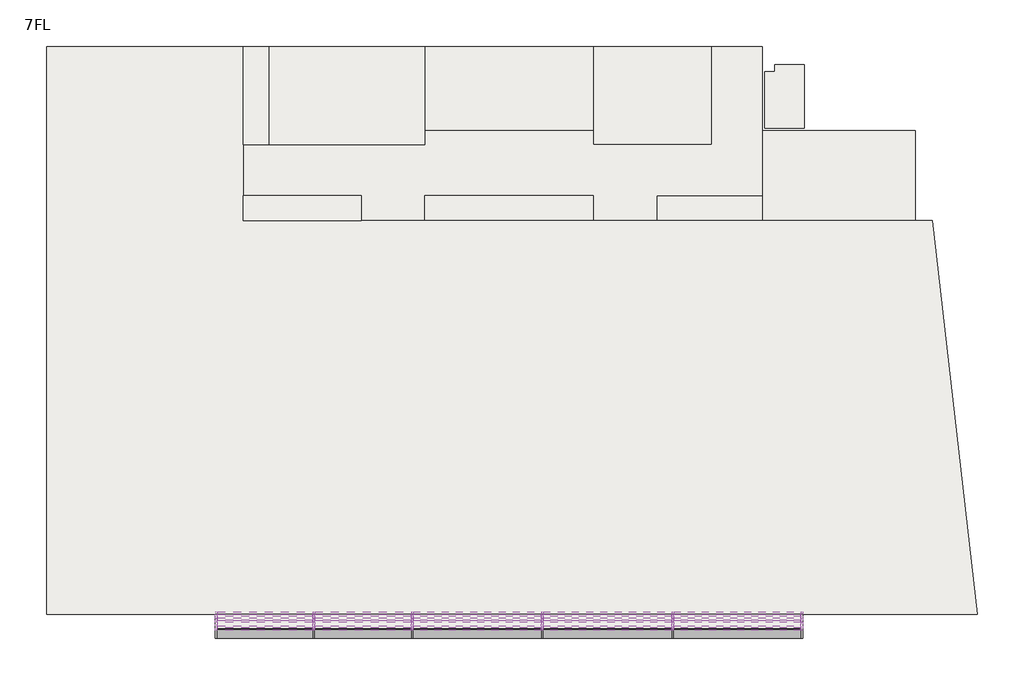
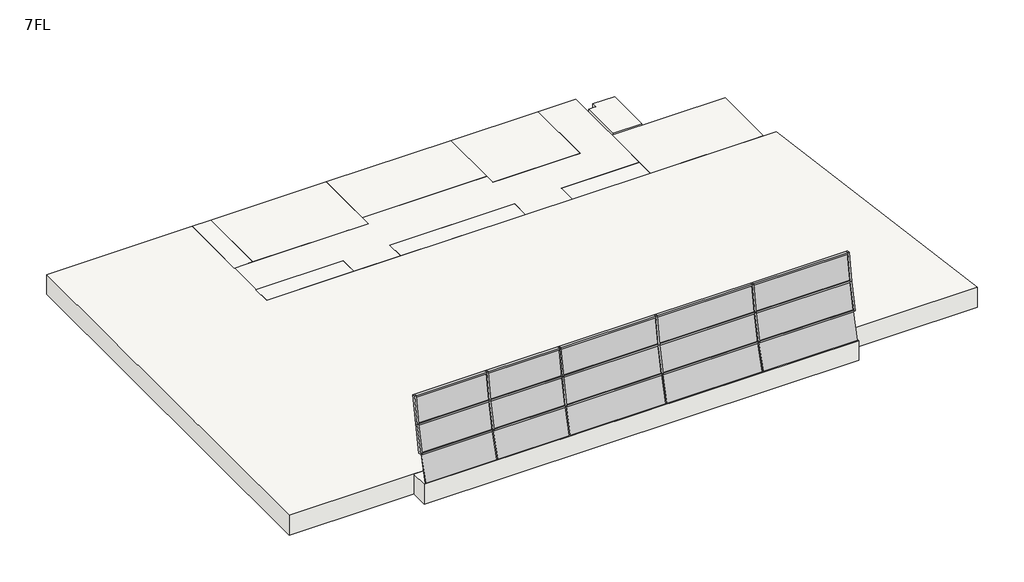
# One storey: 27 members, 15 plates, 12 slabs.
"""IFC4 building model written with IfcOpenShell, lengths in millimetres."""

from ifc_helpers import new_model, si_unit, frame, origin, place, context, project, spatial, polyline, outline, extrude, transform, mapped, element, save
from components import member_70x150_4d24a05e, member_70x150_d36ba8ce, member_70x150_5c89d520, member_70x150_7418113c, member_70x150_34a13c10, member_70x150_728e362a, member_70x150_c8471558, member_70x150_2e5d5b14, member_70x150_fe92fd29, member_70x150_cb2c3fb9, member_70x150_0479a1cf, member_70x150_b7995fa3, member_70x150_c22fedda, member_70x150_83a150f0, plate_ce47b6dc, plate_d6c8d9a2, plate_09a63815, plate_a1dfd6cd, plate_0d44b53b, plate_b0379a14, plate_8248b05d, plate_61a0db6e, plate_442a9317, plate_43654f06, plate_840d3f25, plate_1f6e643f

model = new_model("IFC4")

# Units and contexts
model_context = context("Model", 3, world=origin())
ifc_project = project(units=[si_unit("LENGTHUNIT", "METRE", prefix="MILLI")], contexts=[model_context])

# Site, building, storey
site = spatial("IfcSite", under=ifc_project)
building = spatial("IfcBuilding", under=site)
storey = spatial("IfcBuildingStorey", under=building, Name="7FL", Elevation=24600.0)

# Members
placement = place(None, origin())
member_70x150_shape = member_70x150_4d24a05e(model_context)
element("IfcMember", 1, ObjectType="長方形のマリオン : 70x150", at=placement, inside=storey, context=model_context, shape_type="MappedRepresentation", body=[
    mapped(member_70x150_shape, transform((-2015.9784025, -4048.229819, 25929.8728132), x_axis=(0.0, 0.23949969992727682, 0.9708964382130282), y_axis=(0.0, -0.9708964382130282, 0.23949969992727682), z_axis=(1.0, 0.0, 0.0))),
])
element("IfcMember", 2, ObjectType="長方形のマリオン : 70x150", at=placement, inside=storey, context=model_context, shape_type="MappedRepresentation", body=[
    mapped(member_70x150_shape, transform((-2015.9784025, -3769.2578149, 27263.44472), x_axis=(0.0, 0.1734436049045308, 0.9848438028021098), y_axis=(0.0, -0.9848438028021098, 0.1734436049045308), z_axis=(1.0, 0.0, 0.0))),
])
member_70x150_2_shape = member_70x150_d36ba8ce(model_context)
element("IfcMember", 3, ObjectType="長方形のマリオン : 70x150", at=placement, inside=storey, context=model_context, shape_type="MappedRepresentation", body=[
    mapped(member_70x150_2_shape, transform((-19380.9784025, -3769.2578149, 27263.44472), x_axis=(0.0, 0.17344360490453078, 0.9848438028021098), y_axis=(0.0, -0.9848438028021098, 0.17344360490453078), z_axis=(1.0, 0.0, 0.0))),
])
element("IfcMember", 4, ObjectType="長方形のマリオン : 70x150", at=placement, inside=storey, context=model_context, shape_type="MappedRepresentation", body=[
    mapped(member_70x150_2_shape, transform((-19380.9784025, -4048.229819, 25929.8728132), x_axis=(0.0, 0.23949969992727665, 0.9708964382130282), y_axis=(0.0, -0.9708964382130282, 0.23949969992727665), z_axis=(1.0, 0.0, 0.0))),
])
member_70x150_3_shape = member_70x150_5c89d520(model_context)
element("IfcMember", 5, ObjectType="長方形のマリオン : 70x150", at=placement, inside=storey, context=model_context, shape_type="MappedRepresentation", body=[
    mapped(member_70x150_3_shape, transform((-11247.6450692, -4048.229819, 25929.8728132), x_axis=(0.0, 0.2394996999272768, 0.9708964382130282), y_axis=(0.0, -0.9708964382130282, 0.2394996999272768), z_axis=(1.0, 0.0, 0.0))),
])
element("IfcMember", 6, ObjectType="長方形のマリオン : 70x150", at=placement, inside=storey, context=model_context, shape_type="MappedRepresentation", body=[
    mapped(member_70x150_3_shape, transform((-11247.6450692, -3769.2578149, 27263.44472), x_axis=(0.0, 0.17344360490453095, 0.9848438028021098), y_axis=(0.0, -0.9848438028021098, 0.17344360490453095), z_axis=(1.0, 0.0, 0.0))),
])
element("IfcMember", 7, ObjectType="長方形のマリオン : 70x150", at=placement, inside=storey, context=model_context, shape_type="MappedRepresentation", body=[
    mapped(member_70x150_3_shape, transform((-6614.3117358, -3769.2578149, 27263.44472), x_axis=(0.0, 0.1734436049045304, 0.98484380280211), y_axis=(0.0, -0.98484380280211, 0.1734436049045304), z_axis=(1.0, 0.0, 0.0))),
])
element("IfcMember", 8, ObjectType="長方形のマリオン : 70x150", at=placement, inside=storey, context=model_context, shape_type="MappedRepresentation", body=[
    mapped(member_70x150_3_shape, transform((-6614.3117358, -4048.229819, 25929.8728132), x_axis=(0.0, 0.23949969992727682, 0.9708964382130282), y_axis=(0.0, -0.9708964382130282, 0.23949969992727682), z_axis=(1.0, 0.0, 0.0))),
])
member_70x150_4_shape = member_70x150_7418113c(model_context)
element("IfcMember", 9, ObjectType="長方形のマリオン : 70x150", at=placement, inside=storey, context=model_context, shape_type="MappedRepresentation", body=[
    mapped(member_70x150_4_shape, transform((-15880.9784025, -4048.229819, 25929.8728132), x_axis=(0.0, 0.23949969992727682, 0.9708964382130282), y_axis=(0.0, -0.9708964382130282, 0.23949969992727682), z_axis=(1.0, 0.0, 0.0))),
])
element("IfcMember", 10, ObjectType="長方形のマリオン : 70x150", at=placement, inside=storey, context=model_context, shape_type="MappedRepresentation", body=[
    mapped(member_70x150_4_shape, transform((-15880.9784025, -3769.2578149, 27263.44472), x_axis=(0.0, 0.17344360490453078, 0.9848438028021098), y_axis=(0.0, -0.9848438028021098, 0.17344360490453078), z_axis=(1.0, 0.0, 0.0))),
])
member_70x150_5_shape = member_70x150_34a13c10(model_context)
element("IfcMember", 11, ObjectType="長方形のマリオン : 70x150", at=placement, inside=storey, context=model_context, shape_type="MappedRepresentation", body=[
    mapped(member_70x150_5_shape, transform((-15845.9784025, -4048.229819, 25929.8728132), x_axis=(1.0, 0.0, 0.0), y_axis=(0.0, -0.9788123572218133, 0.20475929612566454), z_axis=(0.0, -0.2047592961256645, -0.9788123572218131))),
])
element("IfcMember", 12, ObjectType="長方形のマリオン : 70x150", at=placement, inside=storey, context=model_context, shape_type="MappedRepresentation", body=[
    mapped(member_70x150_5_shape, transform((-6579.3117358, -4048.229819, 25929.8728132), x_axis=(1.0, 0.0, 0.0), y_axis=(0.0, -0.9788123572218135, 0.20475929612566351), z_axis=(0.0, -0.2047592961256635, -0.9788123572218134))),
])
element("IfcMember", 13, ObjectType="長方形のマリオン : 70x150", at=placement, inside=storey, context=model_context, shape_type="MappedRepresentation", body=[
    mapped(member_70x150_5_shape, transform((-11212.6450692, -4048.229819, 25929.8728132), x_axis=(1.0, 0.0, 0.0), y_axis=(0.0, -0.9788123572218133, 0.20475929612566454), z_axis=(0.0, -0.2047592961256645, -0.9788123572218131))),
])
element("IfcMember", 14, ObjectType="長方形のマリオン : 70x150", at=placement, inside=storey, context=model_context, shape_type="MappedRepresentation", body=[
    mapped(member_70x150_5_shape, transform((-19345.9784025, -4048.229819, 25929.8728132), x_axis=(1.0, 0.0, 0.0), y_axis=(0.0, -0.9788123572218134, 0.2047592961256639), z_axis=(0.0, -0.2047592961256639, -0.9788123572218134))),
])
member_70x150_6_shape = member_70x150_728e362a(model_context)
element("IfcMember", 15, ObjectType="長方形のマリオン : 70x150", at=placement, inside=storey, context=model_context, shape_type="MappedRepresentation", body=[
    mapped(member_70x150_6_shape, transform((-15845.9784025, -3769.2578149, 27263.44472), x_axis=(1.0, 0.0, 0.0), y_axis=(0.0, -0.9868468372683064, 0.16165803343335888), z_axis=(0.0, -0.16165803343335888, -0.9868468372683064))),
])
element("IfcMember", 16, ObjectType="長方形のマリオン : 70x150", at=placement, inside=storey, context=model_context, shape_type="MappedRepresentation", body=[
    mapped(member_70x150_6_shape, transform((-6579.3117358, -3769.2578149, 27263.44472), x_axis=(1.0, 0.0, 0.0), y_axis=(0.0, -0.9868468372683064, 0.16165803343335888), z_axis=(0.0, -0.16165803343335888, -0.9868468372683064))),
])
element("IfcMember", 17, ObjectType="長方形のマリオン : 70x150", at=placement, inside=storey, context=model_context, shape_type="MappedRepresentation", body=[
    mapped(member_70x150_6_shape, transform((-11212.6450692, -3769.2578149, 27263.44472), x_axis=(1.0, 0.0, 0.0), y_axis=(0.0, -0.9868468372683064, 0.16165803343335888), z_axis=(0.0, -0.16165803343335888, -0.9868468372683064))),
])
element("IfcMember", 18, ObjectType="長方形のマリオン : 70x150", at=placement, inside=storey, context=model_context, shape_type="MappedRepresentation", body=[
    mapped(member_70x150_6_shape, transform((-19345.9784025, -3769.2578149, 27263.44472), x_axis=(1.0, 0.0, 0.0), y_axis=(0.0, -0.9868468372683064, 0.16165803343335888), z_axis=(0.0, -0.16165803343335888, -0.9868468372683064))),
])
member_70x150_7_shape = member_70x150_c8471558(model_context)
element("IfcMember", 19, ObjectType="長方形のマリオン : 70x150", at=placement, inside=storey, context=model_context, shape_type="MappedRepresentation", body=[
    mapped(member_70x150_7_shape, transform((-1945.9784025, -4048.229819, 25929.8728132), x_axis=(1.0, 0.0, 0.0), y_axis=(0.0, -0.9788123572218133, 0.20475929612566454), z_axis=(0.0, -0.2047592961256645, -0.9788123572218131))),
])
member_70x150_8_shape = member_70x150_2e5d5b14(model_context)
element("IfcMember", 20, ObjectType="長方形のマリオン : 70x150", at=placement, inside=storey, context=model_context, shape_type="MappedRepresentation", body=[
    mapped(member_70x150_8_shape, transform((-2015.9784025, -3550.3131013, 28600.0), x_axis=(0.0, 0.16165803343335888, 0.9868468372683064), y_axis=(0.0, -0.9868468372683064, 0.16165803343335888), z_axis=(1.0, 0.0, 0.0))),
])
member_70x150_9_shape = member_70x150_fe92fd29(model_context)
element("IfcMember", 21, ObjectType="長方形のマリオン : 70x150", at=placement, inside=storey, context=model_context, shape_type="MappedRepresentation", body=[
    mapped(member_70x150_9_shape, transform((-22845.9784025, -3550.3131013, 28600.0), x_axis=(-1.0, 0.0, 0.0), y_axis=(0.0, -0.9868468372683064, 0.16165803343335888), z_axis=(0.0, 0.16165803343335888, 0.9868468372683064))),
])
member_70x150_10_shape = member_70x150_cb2c3fb9(model_context)
element("IfcMember", 22, ObjectType="長方形のマリオン : 70x150", at=placement, inside=storey, context=model_context, shape_type="MappedRepresentation", body=[
    mapped(member_70x150_10_shape, transform((-6614.3117358, -3550.3131013, 28600.0), x_axis=(0.0, 0.1616580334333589, 0.9868468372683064), y_axis=(0.0, -0.9868468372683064, 0.1616580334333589), z_axis=(1.0, 0.0, 0.0))),
])
element("IfcMember", 23, ObjectType="長方形のマリオン : 70x150", at=placement, inside=storey, context=model_context, shape_type="MappedRepresentation", body=[
    mapped(member_70x150_10_shape, transform((-11247.6450692, -3550.3131013, 28600.0), x_axis=(0.0, 0.1616580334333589, 0.9868468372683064), y_axis=(0.0, -0.9868468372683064, 0.1616580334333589), z_axis=(1.0, 0.0, 0.0))),
])
member_70x150_11_shape = member_70x150_0479a1cf(model_context)
element("IfcMember", 24, ObjectType="長方形のマリオン : 70x150", at=placement, inside=storey, context=model_context, shape_type="MappedRepresentation", body=[
    mapped(member_70x150_11_shape, transform((-19380.9784025, -3550.3131013, 28600.0), x_axis=(0.0, 0.1616580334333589, 0.9868468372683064), y_axis=(0.0, -0.9868468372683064, 0.1616580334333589), z_axis=(1.0, 0.0, 0.0))),
])
member_70x150_12_shape = member_70x150_b7995fa3(model_context)
element("IfcMember", 25, ObjectType="長方形のマリオン : 70x150", at=placement, inside=storey, context=model_context, shape_type="MappedRepresentation", body=[
    mapped(member_70x150_12_shape, transform((-15880.9784025, -3550.3131013, 28600.0), x_axis=(0.0, 0.1616580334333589, 0.9868468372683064), y_axis=(0.0, -0.9868468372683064, 0.1616580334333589), z_axis=(1.0, 0.0, 0.0))),
])
member_70x150_13_shape = member_70x150_c22fedda(model_context)
element("IfcMember", 26, ObjectType="長方形のマリオン : 70x150", at=placement, inside=storey, context=model_context, shape_type="MappedRepresentation", body=[
    mapped(member_70x150_13_shape, transform((-1945.9784025, -3769.2578149, 27263.44472), x_axis=(1.0, 0.0, 0.0), y_axis=(0.0, -0.9868468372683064, 0.16165803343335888), z_axis=(0.0, -0.16165803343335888, -0.9868468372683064))),
])
member_70x150_14_shape = member_70x150_83a150f0(model_context)
element("IfcMember", 27, ObjectType="長方形のマリオン : 70x150", at=placement, inside=storey, context=model_context, shape_type="MappedRepresentation", body=[
    mapped(member_70x150_14_shape, transform((-22845.9784025, -3769.2578149, 27263.44472), x_axis=(-1.0, 0.0, 0.0), y_axis=(0.0, -0.9788123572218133, 0.20475929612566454), z_axis=(0.0, 0.2047592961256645, 0.9788123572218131))),
])

# Plates
plate_shape = plate_ce47b6dc(model_context)
element("IfcPlate", 28, ObjectType="システム パネル : 標準", at=placement, inside=storey, context=model_context, shape_type="MappedRepresentation", body=[
    mapped(plate_shape, transform((-21078.4784025, -4407.0016586, 24633.7316186), x_axis=(1.0, 0.0, 0.0), y_axis=(0.0, 0.9637605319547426, -0.26676888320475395), z_axis=(0.0, 0.26676888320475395, 0.9637605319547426))),
])
plate_2_shape = plate_d6c8d9a2(model_context)
element("IfcPlate", 29, ObjectType="システム パネル : 標準", at=placement, inside=storey, context=model_context, shape_type="MappedRepresentation", body=[
    mapped(plate_2_shape, transform((-21078.4784025, -3763.5997837, 27297.9843593), x_axis=(1.0, 0.0, 0.0), y_axis=(0.0, 0.9868468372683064, -0.1616580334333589), z_axis=(0.0, 0.1616580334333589, 0.9868468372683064))),
])
plate_3_shape = plate_09a63815(model_context)
element("IfcPlate", 30, ObjectType="システム パネル : 標準", at=placement, inside=storey, context=model_context, shape_type="MappedRepresentation", body=[
    mapped(plate_3_shape, transform((-21078.4784025, -4041.0632437, 25964.1312457), x_axis=(1.0, 0.0, 0.0), y_axis=(0.0, 0.9788123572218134, -0.2047592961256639), z_axis=(0.0, 0.2047592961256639, 0.9788123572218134))),
])
plate_4_shape = plate_a1dfd6cd(model_context)
element("IfcPlate", 31, ObjectType="システム パネル : 標準", at=placement, inside=storey, context=model_context, shape_type="MappedRepresentation", body=[
    mapped(plate_4_shape, transform((-13529.3117358, -4407.0016586, 24633.7316186), x_axis=(1.0, 0.0, 0.0), y_axis=(0.0, 0.9637605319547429, -0.2667688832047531), z_axis=(0.0, 0.2667688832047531, 0.9637605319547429))),
])
element("IfcPlate", 32, ObjectType="システム パネル : 標準", at=placement, inside=storey, context=model_context, shape_type="MappedRepresentation", body=[
    mapped(plate_4_shape, transform((-8895.9784025, -4407.0016586, 24633.7316186), x_axis=(1.0, 0.0, 0.0), y_axis=(0.0, 0.9637605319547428, -0.2667688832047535), z_axis=(0.0, 0.2667688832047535, 0.9637605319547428))),
])
plate_5_shape = plate_0d44b53b(model_context)
element("IfcPlate", 33, ObjectType="システム パネル : 標準", at=placement, inside=storey, context=model_context, shape_type="MappedRepresentation", body=[
    mapped(plate_5_shape, transform((-13529.3117358, -4041.0632437, 25964.1312457), x_axis=(1.0, 0.0, 0.0), y_axis=(0.0, 0.9788123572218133, -0.2047592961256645), z_axis=(0.0, 0.2047592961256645, 0.9788123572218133))),
])
element("IfcPlate", 34, ObjectType="システム パネル : 標準", at=placement, inside=storey, context=model_context, shape_type="MappedRepresentation", body=[
    mapped(plate_5_shape, transform((-8895.9784025, -4041.0632437, 25964.1312457), x_axis=(1.0, 0.0, 0.0), y_axis=(0.0, 0.9788123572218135, -0.2047592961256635), z_axis=(0.0, 0.2047592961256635, 0.9788123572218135))),
])
plate_6_shape = plate_b0379a14(model_context)
element("IfcPlate", 35, ObjectType="システム パネル : 標準", at=placement, inside=storey, context=model_context, shape_type="MappedRepresentation", body=[
    mapped(plate_6_shape, transform((-13529.3117358, -3763.5997837, 27297.9843593), x_axis=(1.0, 0.0, 0.0), y_axis=(0.0, 0.9868468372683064, -0.1616580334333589), z_axis=(0.0, 0.1616580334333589, 0.9868468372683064))),
])
element("IfcPlate", 36, ObjectType="システム パネル : 標準", at=placement, inside=storey, context=model_context, shape_type="MappedRepresentation", body=[
    mapped(plate_6_shape, transform((-8895.9784025, -3763.5997837, 27297.9843593), x_axis=(1.0, 0.0, 0.0), y_axis=(0.0, 0.9868468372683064, -0.1616580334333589), z_axis=(0.0, 0.1616580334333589, 0.9868468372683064))),
])
plate_7_shape = plate_8248b05d(model_context)
element("IfcPlate", 37, ObjectType="システム パネル : 標準", at=placement, inside=storey, context=model_context, shape_type="MappedRepresentation", body=[
    mapped(plate_7_shape, transform((-17595.9784025, -4407.0016586, 24633.7316186), x_axis=(1.0, 0.0, 0.0), y_axis=(0.0, 0.9637605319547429, -0.26676888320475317), z_axis=(0.0, 0.26676888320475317, 0.9637605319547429))),
])
plate_8_shape = plate_61a0db6e(model_context)
element("IfcPlate", 38, ObjectType="システム パネル : 標準", at=placement, inside=storey, context=model_context, shape_type="MappedRepresentation", body=[
    mapped(plate_8_shape, transform((-17595.9784025, -4041.0632437, 25964.1312457), x_axis=(1.0, 0.0, 0.0), y_axis=(0.0, 0.9788123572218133, -0.20475929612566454), z_axis=(0.0, 0.20475929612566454, 0.9788123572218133))),
])
plate_9_shape = plate_442a9317(model_context)
element("IfcPlate", 39, ObjectType="システム パネル : 標準", at=placement, inside=storey, context=model_context, shape_type="MappedRepresentation", body=[
    mapped(plate_9_shape, transform((-17595.9784025, -3763.5997837, 27297.9843593), x_axis=(1.0, 0.0, 0.0), y_axis=(0.0, 0.9868468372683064, -0.1616580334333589), z_axis=(0.0, 0.1616580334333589, 0.9868468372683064))),
])
plate_10_shape = plate_43654f06(model_context)
element("IfcPlate", 40, ObjectType="システム パネル : 標準", at=placement, inside=storey, context=model_context, shape_type="MappedRepresentation", body=[
    mapped(plate_10_shape, transform((-4280.1450692, -4407.0016586, 24633.7316186), x_axis=(1.0, 0.0, 0.0), y_axis=(0.0, 0.9637605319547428, -0.2667688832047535), z_axis=(0.0, 0.2667688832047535, 0.9637605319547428))),
])
plate_11_shape = plate_840d3f25(model_context)
element("IfcPlate", 41, ObjectType="システム パネル : 標準", at=placement, inside=storey, context=model_context, shape_type="MappedRepresentation", body=[
    mapped(plate_11_shape, transform((-4280.1450692, -4041.0632437, 25964.1312457), x_axis=(1.0, 0.0, 0.0), y_axis=(0.0, 0.9788123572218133, -0.2047592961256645), z_axis=(0.0, 0.2047592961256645, 0.9788123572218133))),
])
plate_12_shape = plate_1f6e643f(model_context)
element("IfcPlate", 42, ObjectType="システム パネル : 標準", at=placement, inside=storey, context=model_context, shape_type="MappedRepresentation", body=[
    mapped(plate_12_shape, transform((-4280.1450692, -3763.5997837, 27297.9843593), x_axis=(1.0, 0.0, 0.0), y_axis=(0.0, 0.9868468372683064, -0.16165803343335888), z_axis=(0.0, 0.16165803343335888, 0.9868468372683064))),
])

# Slabs
element("IfcSlab", 43, ObjectType="企画1000", at=placement, inside=storey, context=model_context, shape_type="SweptSolid", body=[
    extrude(outline(polyline([(-17645.9784025, 11349.6868987), (-17645.9784025, 10449.6868987), (-21845.9784025, 10449.6868987), (-21845.9784025, 11349.6868987), (-17645.9784025, 11349.6868987)])), frame((0.0, 0.0, 23600.0), z_axis=(0.0, 0.0, 1.0), x_axis=(1.0, 0.0, 0.0)), (0.0, 0.0, 1.0), 1000.0),
])
element("IfcSlab", 44, ObjectType="企画1000", at=placement, inside=storey, context=model_context, shape_type="SweptSolid", body=[
    extrude(outline(polyline([(-20945.9784025, 16649.6868987), (-20945.9784025, 13149.6868987), (-21845.9784025, 13149.6868987), (-21845.9784025, 16649.6868987), (-20945.9784025, 16649.6868987)])), frame((0.0, 0.0, 23600.0), z_axis=(0.0, 0.0, 1.0), x_axis=(1.0, 0.0, 0.0)), (0.0, 0.0, 1.0), 1000.0),
])
element("IfcSlab", 45, ObjectType="企画1000", at=placement, inside=storey, context=model_context, shape_type="SweptSolid", body=[
    extrude(outline(polyline([(-9395.9784025, 16649.6868987), (-9395.9784025, 13649.6868987), (-15395.9784025, 13649.6868987), (-15395.9784025, 16649.6868987), (-9395.9784025, 16649.6868987)])), frame((0.0, 0.0, 23600.0), z_axis=(0.0, 0.0, 1.0), x_axis=(1.0, 0.0, 0.0)), (0.0, 0.0, 1.0), 1000.0),
])
element("IfcSlab", 46, ObjectType="企画1000", at=placement, inside=storey, context=model_context, shape_type="SweptSolid", body=[
    extrude(outline(polyline([(-28845.9784025, -3550.3131013), (-28845.9784025, 16649.6868987), (-21845.9784025, 16649.6868987), (-21845.9784025, 10449.6868987), (2661.9595949, 10449.6868987), (4261.9595949, -3550.3131013), (-28845.9784025, -3550.3131013)])), frame((0.0, 0.0, 23600.0), z_axis=(0.0, 0.0, 1.0), x_axis=(1.0, 0.0, 0.0)), (0.0, 0.0, 1.0), 1000.0),
])
element("IfcSlab", 47, ObjectType="企画1000", at=placement, inside=storey, context=model_context, shape_type="SweptSolid", body=[
    extrude(outline(polyline([(-9395.9784025, 11349.6868987), (-9395.9784025, 10449.6868987), (-15395.9784025, 10449.6868987), (-15395.9784025, 11349.6868987), (-9395.9784025, 11349.6868987)])), frame((0.0, 0.0, 23600.0), z_axis=(0.0, 0.0, 1.0), x_axis=(1.0, 0.0, 0.0)), (0.0, 0.0, 1.0), 1000.0),
])
element("IfcSlab", 48, ObjectType="企画1000", at=placement, inside=storey, context=model_context, shape_type="SweptSolid", body=[
    extrude(outline(polyline([(2054.0215975, 13649.6868987), (2054.0215975, 10449.6868987), (-3395.9784025, 10449.6868987), (-3395.9784025, 13649.6868987), (2054.0215975, 13649.6868987)])), frame((0.0, 0.0, 23600.0), z_axis=(0.0, 0.0, 1.0), x_axis=(1.0, 0.0, 0.0)), (0.0, 0.0, 1.0), 1000.0),
])
element("IfcSlab", 49, ObjectType="企画1000", at=placement, inside=storey, context=model_context, shape_type="SweptSolid", body=[
    extrude(outline(polyline([(-15395.9784025, 13149.6868987), (-15395.9784025, 13649.6868987), (-9395.9784025, 13649.6868987), (-9395.9784025, 13149.6868987), (-5195.9784025, 13149.6868987), (-5195.9784025, 16649.6868987), (-3395.9784025, 16649.6868987), (-3395.9784025, 11349.6868987), (-7145.9784025, 11349.6868987), (-7145.9784025, 10449.6868987), (-9395.9784025, 10449.6868987), (-9395.9784025, 11349.6868987), (-15395.9784025, 11349.6868987), (-15395.9784025, 10449.6868987), (-17645.9784025, 10449.6868987), (-17645.9784025, 11349.6868987), (-21845.9784025, 11349.6868987), (-21845.9784025, 13149.6868987), (-15395.9784025, 13149.6868987)])), frame((0.0, 0.0, 23600.0), z_axis=(0.0, 0.0, 1.0), x_axis=(1.0, 0.0, 0.0)), (0.0, 0.0, 1.0), 1000.0),
])
element("IfcSlab", 50, ObjectType="企画1000", at=placement, inside=storey, context=model_context, shape_type="SweptSolid", body=[
    extrude(outline(polyline([(-15395.9784025, 16649.6868987), (-15395.9784025, 13149.6868987), (-20945.9784025, 13149.6868987), (-20945.9784025, 16649.6868987), (-15395.9784025, 16649.6868987)])), frame((0.0, 0.0, 23600.0), z_axis=(0.0, 0.0, 1.0), x_axis=(1.0, 0.0, 0.0)), (0.0, 0.0, 1.0), 1000.0),
])
element("IfcSlab", 51, ObjectType="企画1000", at=placement, inside=storey, context=model_context, shape_type="SweptSolid", body=[
    extrude(outline(polyline([(-5195.9784025, 16649.6868987), (-5195.9784025, 13149.6868987), (-9395.9784025, 13149.6868987), (-9395.9784025, 16649.6868987), (-5195.9784025, 16649.6868987)])), frame((0.0, 0.0, 23600.0), z_axis=(0.0, 0.0, 1.0), x_axis=(1.0, 0.0, 0.0)), (0.0, 0.0, 1.0), 1000.0),
])
element("IfcSlab", 52, ObjectType="企画1000", at=placement, inside=storey, context=model_context, shape_type="SweptSolid", body=[
    extrude(outline(polyline([(-3395.9784025, 11349.6868987), (-3395.9784025, 10449.6868987), (-7145.9784025, 10449.6868987), (-7145.9784025, 11349.6868987), (-3395.9784025, 11349.6868987)])), frame((0.0, 0.0, 23600.0), z_axis=(0.0, 0.0, 1.0), x_axis=(1.0, 0.0, 0.0)), (0.0, 0.0, 1.0), 1000.0),
])
element("IfcSlab", 53, ObjectType="企画1000", at=placement, inside=storey, context=model_context, shape_type="SweptSolid", body=[
    extrude(outline(polyline([(-1945.9784025, -3550.3131013), (-1945.9784025, -4416.3385695), (-22845.9784025, -4416.3385695), (-22845.9784025, -3550.3131013), (-1945.9784025, -3550.3131013)])), frame((0.0, 0.0, 23600.0), z_axis=(0.0, 0.0, 1.0), x_axis=(1.0, 0.0, 0.0)), (0.0, 0.0, 1.0), 1000.0),
])
element("IfcSlab", 54, ObjectType="RC250", at=placement, inside=storey, context=model_context, shape_type="SweptSolid", body=[
    extrude(outline(polyline([(-2945.9784025, 15999.6868987), (-1895.9784025, 15999.6868987), (-1895.9784025, 13749.6868987), (-3295.9784025, 13749.6868987), (-3295.9784025, 15749.6868987), (-2945.9784025, 15749.6868987), (-2945.9784025, 15999.6868987)])), frame((0.0, 0.0, 24350.0), z_axis=(0.0, 0.0, 1.0), x_axis=(1.0, 0.0, 0.0)), (0.0, 0.0, 1.0), 250.0),
])

save(model, "model.ifc")
